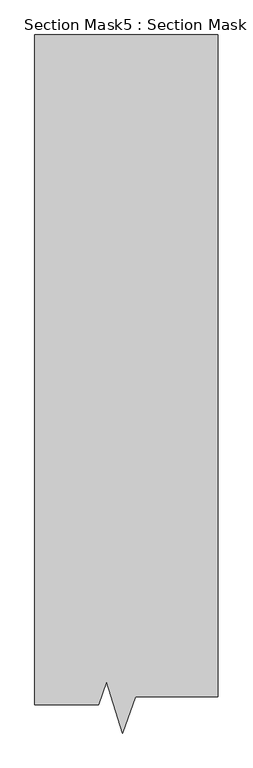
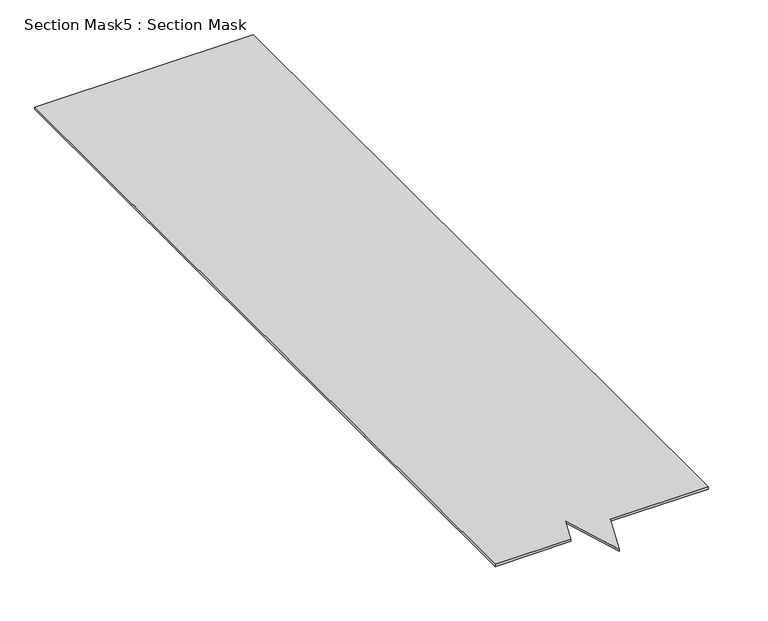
"""IFC4 building model written with IfcOpenShell, lengths in millimetres: proxy geometry, Section Mask5 : Section Mask."""

from ifc_helpers import new_model, si_unit, frame, origin, place, context, project, spatial, polyline, outline, extrude, source, transform, mapped, element, save


def section_mask5_section_mask_89c82928(model_context):
    return source(origin(), model_context, "Body", "SweptSolid", [
        extrude(outline(polyline([(8124.664325, 631.273934), (7950.4235609, 631.273934), (7950.4235609, 2465.4614947), (8452.5633775, 2465.4614947), (8452.5633775, 652.1224056), (8227.2982256, 652.1224056), (8190.6813689, 552.9595639), (8147.6812645, 693.6065681), (8124.664325, 631.273934)])), frame((0.0, 0.0, 62.9148577), z_axis=(0.0, 0.0, 1.0), x_axis=(1.0, 0.0, 0.0)), (0.0, 0.0, 1.0), 5.0823529),
    ])


if __name__ == "__main__":
    model = new_model("IFC4")
    model_context = context("Model", 3, world=origin())
    ifc_project = project(units=[si_unit("LENGTHUNIT", "METRE", prefix="MILLI")], contexts=[model_context])
    site = spatial("IfcSite", under=ifc_project)
    building = spatial("IfcBuilding", under=site)
    placement = place(None, origin())
    section_mask5_section_mask_shape = section_mask5_section_mask_89c82928(model_context)
    element("IfcBuildingElementProxy", 1, Name="Section Mask5 : Section Mask", ObjectType="Section Mask5 : Section Mask", at=placement, inside=building, context=model_context, shape_type="MappedRepresentation", body=[
        mapped(section_mask5_section_mask_shape, transform((0.0, 0.0, 0.0), x_axis=(1.0, 0.0, 0.0), y_axis=(0.0, 1.0, 0.0), z_axis=(0.0, 0.0, 1.0))),
    ])
    save(model, "model.ifc")
